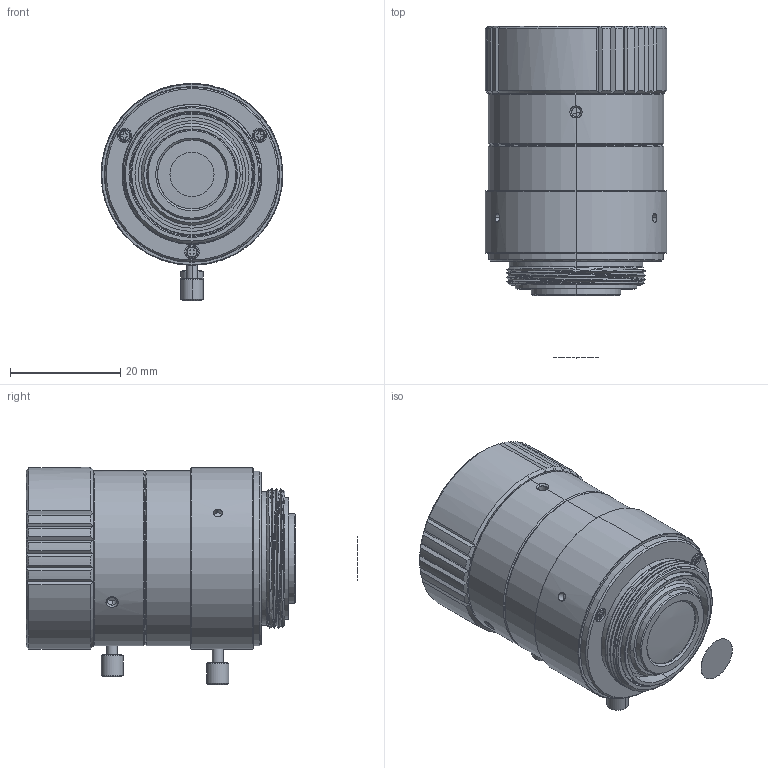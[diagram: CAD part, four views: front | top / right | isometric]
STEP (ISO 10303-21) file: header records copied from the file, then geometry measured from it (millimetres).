
FILE_DESCRIPTION (( 'STEP AP203' ), '1' );
FILE_NAME ('HN-P-5028-6M-C1-1.8_3D_Modeling.STEP', '2023-03-29T08:17:23', ( 'DH' ), ( '' ), 'SwSTEP 2.0', 'SolidWorks 2016', '' );
FILE_SCHEMA (( 'CONFIG_CONTROL_DESIGN' ));
Length unit declared in the file: millimetre
Products named in the file (16): DH-50-XM; PHX-16-203; DH1-16-502; DH-50-109; HN-P-5028-6M-C1-1.8_3D_Modeling; DH-50-401; DH-50-102; DH-50B-201; DH-50-G1; DH-50-101; DH-50-108; DH-50B-301; DH-50-G7; DH-50B-202; PHX-16-501; DH-50-403
Assembly tree (18 placements, depth 2):
  HN-P-5028-6M-C1-1.8_3D_Modeling
    DH-50B-201
    DH-50-101
    DH-50B-301
    DH-50B-202
    DH-50-403
    PHX-16-203
    DH-50-109
    DH-50-401
    DH-50-102
    DH-50-G1
    DH-50-108
    DH-50-G7
    PHX-16-501  x2
    DH-50-XM
    DH1-16-502  x3
Bounding box: 33 x 60.22 x 39.4 mm (x, y, z)
Volume: 16399.6 mm3; surface area: 29833.1 mm2
Topology: 15 solids, 18 shells, 741 faces, 1842 edges, 1165 vertices
Faces by surface type: cylinder 305, cone 204, plane 175, bspline 47, torus 6, sphere 4
Entity records: 39138 total; most frequent: CARTESIAN_POINT 21907, ORIENTED_EDGE 3281, DIRECTION 3085, EDGE_CURVE 1658, AXIS2_PLACEMENT_3D 1259, VERTEX_POINT 1051, EDGE_LOOP 770, FACE_OUTER_BOUND 670
